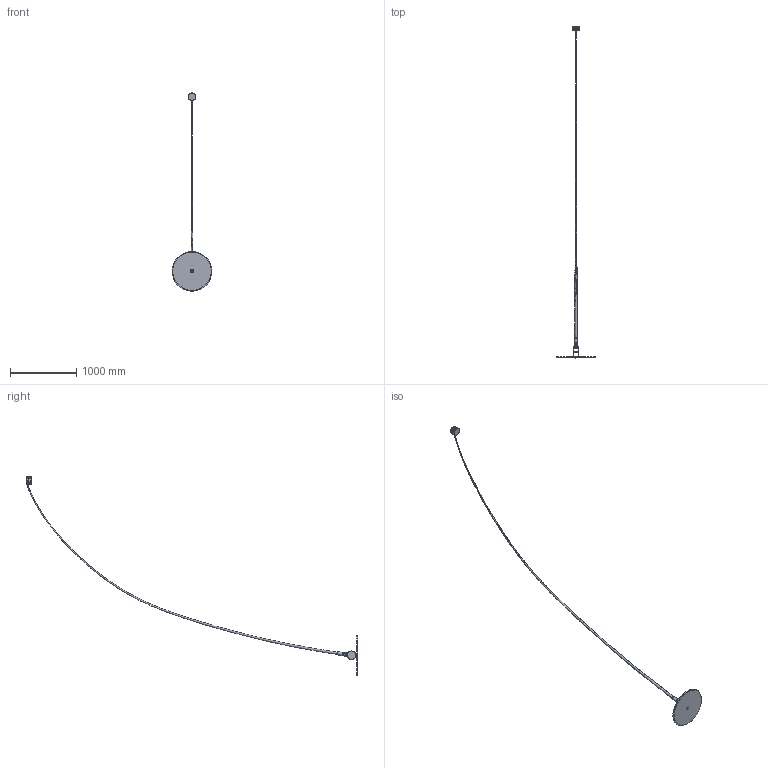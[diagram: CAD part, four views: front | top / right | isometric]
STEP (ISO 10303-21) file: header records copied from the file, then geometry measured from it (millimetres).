
FILE_DESCRIPTION(/* description */ (''),/* implementation_level */ '2;1');
FILE_NAME(/* name */ 'SAMPEI XXL.stp',/* time_stamp */ '2025-02-10T15:43:35+01:00',/* author */ ('n.bisotti'),/* organization */ (''),/* preprocessor_version */ 'ST-DEVELOPER v19.2',/* originating_system */ 'Autodesk Inventor 2023',/* authorisation */ '');
FILE_SCHEMA (('AUTOMOTIVE_DESIGN { 1 0 10303 214 3 1 1 }'));
Length unit declared in the file: millimetre
Products named in the file (1): Parte3
Bounding box: 600 x 5001.62 x 2991.97 mm (x, y, z)
Volume: 6530337.7 mm3; surface area: 2165796.5 mm2
Topology: 19 solids, 19 shells, 424 faces, 1043 edges, 680 vertices
Faces by surface type: plane 178, cylinder 118, bspline 97, cone 26, torus 3, sphere 2
Full cylindrical faces by diameter (mm): 2.459 x1, 3 x1, 3.242 x4, 3.25 x4, 4.25 x4, 6 x2, 6.399 x4, 6.5 x1, 7.11 x4, 7.2 x4, 7.647 x1, 8.917 x1, 10 x2, 10.8 x1, 13 x1, 13.5 x1, 15.8 x1, 16 x1, 17 x1, 17.6 x1, 20 x1, 24 x1, 36.2 x3, 38 x1, 40 x1, 42 x1, 44.9 x2, 50 x3, 111.5 x1, 112.5 x2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
Entity records: 19103 total; most frequent: CARTESIAN_POINT 8896, ORIENTED_EDGE 2066, DIRECTION 1780, EDGE_CURVE 1033, VERTEX_POINT 680, AXIS2_PLACEMENT_3D 648, EDGE_LOOP 501, LINE 484
